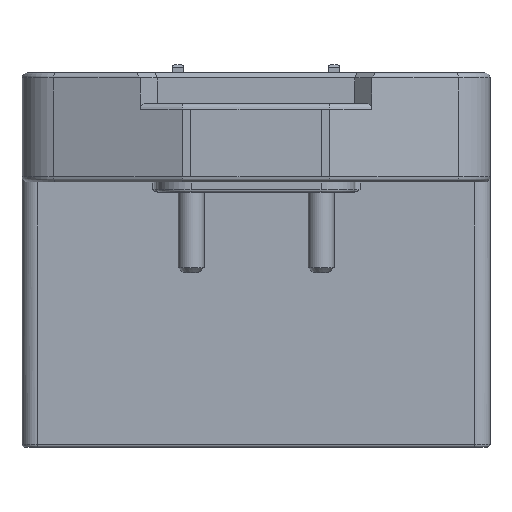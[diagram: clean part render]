
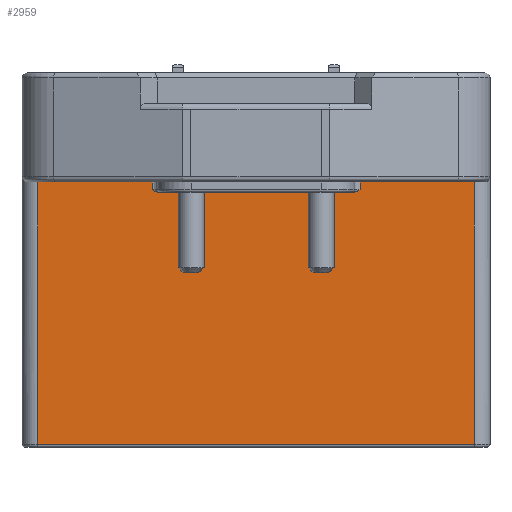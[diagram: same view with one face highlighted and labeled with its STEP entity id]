
A CAD part, front view. The second image highlights one B-rep face of the part: STEP entity #2959.
In plain terms, the highlighted planar face has unit normal (0, -1, 0) as drawn and (0, 0, 1) by its records, which use the part's own axes.
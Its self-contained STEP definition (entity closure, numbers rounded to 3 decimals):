
#1929=PLANE('',#23654);
#2240=FACE_OUTER_BOUND('',#5176,.T.);
#2959=ADVANCED_FACE('',(#2240),#1929,.T.);
#5176=EDGE_LOOP('',(#6942,#6943,#6944,#6945,#6946,#6947,#6948,#6949,#6950,
#6951));
#6942=ORIENTED_EDGE('',*,*,#12719,.T.);
#6943=ORIENTED_EDGE('',*,*,#12720,.T.);
#6944=ORIENTED_EDGE('',*,*,#12721,.F.);
#6945=ORIENTED_EDGE('',*,*,#12722,.T.);
#6946=ORIENTED_EDGE('',*,*,#12723,.F.);
#6947=ORIENTED_EDGE('',*,*,#12724,.T.);
#6948=ORIENTED_EDGE('',*,*,#12725,.F.);
#6949=ORIENTED_EDGE('',*,*,#12726,.T.);
#6950=ORIENTED_EDGE('',*,*,#12727,.T.);
#6951=ORIENTED_EDGE('',*,*,#12728,.F.);
#11241=VERTEX_POINT('',#64162);
#11242=VERTEX_POINT('',#64163);
#11243=VERTEX_POINT('',#64165);
#11244=VERTEX_POINT('',#64167);
#11245=VERTEX_POINT('',#64169);
#11246=VERTEX_POINT('',#64171);
#11247=VERTEX_POINT('',#64185);
#11248=VERTEX_POINT('',#64187);
#11249=VERTEX_POINT('',#64201);
#11250=VERTEX_POINT('',#64203);
#12719=EDGE_CURVE('',#11241,#11242,#20600,.T.);
#12720=EDGE_CURVE('',#11242,#11243,#20601,.T.);
#12721=EDGE_CURVE('',#11244,#11243,#20602,.T.);
#12722=EDGE_CURVE('',#11244,#11245,#20603,.T.);
#12723=EDGE_CURVE('',#11246,#11245,#20604,.T.);
#12724=EDGE_CURVE('',#11246,#11247,#16872,.T.);
#12725=EDGE_CURVE('',#11248,#11247,#20605,.T.);
#12726=EDGE_CURVE('',#11248,#11249,#16873,.T.);
#12727=EDGE_CURVE('',#11249,#11250,#20606,.T.);
#12728=EDGE_CURVE('',#11241,#11250,#20607,.T.);
#16872=B_SPLINE_CURVE_WITH_KNOTS('',3,(#64172,#64173,#64174,#64175,#64176,
#64177,#64178,#64179,#64180,#64181,#64182,#64183,#64184),.UNSPECIFIED.,
 .F.,.F.,(4,3,3,3,4),(0.,0.005,0.098,0.718,
1.),.UNSPECIFIED.);
#16873=B_SPLINE_CURVE_WITH_KNOTS('',3,(#64188,#64189,#64190,#64191,#64192,
#64193,#64194,#64195,#64196,#64197,#64198,#64199,#64200),.UNSPECIFIED.,
 .F.,.F.,(4,3,3,3,4),(0.,0.282,0.902,0.995,
1.),.UNSPECIFIED.);
#20600=LINE('',#64161,#22633);
#20601=LINE('',#64164,#22634);
#20602=LINE('',#64166,#22635);
#20603=LINE('',#64168,#22636);
#20604=LINE('',#64170,#22637);
#20605=LINE('',#64186,#22638);
#20606=LINE('',#64202,#22639);
#20607=LINE('',#64204,#22640);
#22633=VECTOR('',#27268,1.);
#22634=VECTOR('',#27269,1.);
#22635=VECTOR('',#27270,1.);
#22636=VECTOR('',#27271,1.);
#22637=VECTOR('',#27272,1.);
#22638=VECTOR('',#27273,1.);
#22639=VECTOR('',#27274,1.);
#22640=VECTOR('',#27275,1.);
#23654=AXIS2_PLACEMENT_3D('',#64205,#27276,#27277);
#27268=DIRECTION('',(0.,-1.,0.));
#27269=DIRECTION('',(1.,0.,0.));
#27270=DIRECTION('',(0.,-1.,0.));
#27271=DIRECTION('',(-1.,0.,0.));
#27272=DIRECTION('',(0.,1.,0.));
#27273=DIRECTION('',(1.,0.,0.));
#27274=DIRECTION('',(0.,1.,0.));
#27275=DIRECTION('',(1.,0.,0.));
#27276=DIRECTION('',(0.,0.,1.));
#27277=DIRECTION('',(1.,0.,0.));
#64161=CARTESIAN_POINT('',(8.75,89.5,42.));
#64162=CARTESIAN_POINT('',(8.75,68.5,42.));
#64163=CARTESIAN_POINT('',(8.75,18.,42.));
#64164=CARTESIAN_POINT('',(129.5,18.,42.));
#64165=CARTESIAN_POINT('',(92.75,18.,42.));
#64166=CARTESIAN_POINT('',(92.75,89.5,42.));
#64167=CARTESIAN_POINT('',(92.75,68.5,42.));
#64168=CARTESIAN_POINT('',(-30.,68.5,42.));
#64169=CARTESIAN_POINT('',(70.75,68.5,42.));
#64170=CARTESIAN_POINT('',(70.75,89.5,42.));
#64171=CARTESIAN_POINT('',(70.75,67.,42.));
#64172=CARTESIAN_POINT('',(70.75,67.,42.));
#64173=CARTESIAN_POINT('',(70.748,66.999,42.));
#64174=CARTESIAN_POINT('',(70.747,66.998,42.));
#64175=CARTESIAN_POINT('',(70.745,66.996,42.));
#64176=CARTESIAN_POINT('',(70.713,66.974,42.));
#64177=CARTESIAN_POINT('',(70.682,66.952,42.));
#64178=CARTESIAN_POINT('',(70.65,66.929,42.));
#64179=CARTESIAN_POINT('',(70.44,66.783,42.));
#64180=CARTESIAN_POINT('',(70.221,66.639,42.));
#64181=CARTESIAN_POINT('',(69.978,66.56,42.));
#64182=CARTESIAN_POINT('',(69.867,66.523,42.));
#64183=CARTESIAN_POINT('',(69.749,66.5,42.));
#64184=CARTESIAN_POINT('',(69.632,66.5,42.));
#64185=CARTESIAN_POINT('',(69.632,66.5,42.));
#64186=CARTESIAN_POINT('',(31.25,66.5,42.));
#64187=CARTESIAN_POINT('',(31.868,66.5,42.));
#64188=CARTESIAN_POINT('',(31.868,66.5,42.));
#64189=CARTESIAN_POINT('',(31.751,66.5,42.));
#64190=CARTESIAN_POINT('',(31.633,66.523,42.));
#64191=CARTESIAN_POINT('',(31.522,66.56,42.));
#64192=CARTESIAN_POINT('',(31.279,66.639,42.));
#64193=CARTESIAN_POINT('',(31.06,66.783,42.));
#64194=CARTESIAN_POINT('',(30.85,66.929,42.));
#64195=CARTESIAN_POINT('',(30.818,66.952,42.));
#64196=CARTESIAN_POINT('',(30.787,66.974,42.));
#64197=CARTESIAN_POINT('',(30.755,66.996,42.));
#64198=CARTESIAN_POINT('',(30.753,66.998,42.));
#64199=CARTESIAN_POINT('',(30.752,66.999,42.));
#64200=CARTESIAN_POINT('',(30.75,67.,42.));
#64201=CARTESIAN_POINT('',(30.75,67.,42.));
#64202=CARTESIAN_POINT('',(30.75,89.5,42.));
#64203=CARTESIAN_POINT('',(30.75,68.5,42.));
#64204=CARTESIAN_POINT('',(131.5,68.5,42.));
#64205=CARTESIAN_POINT('',(129.5,89.5,42.));
